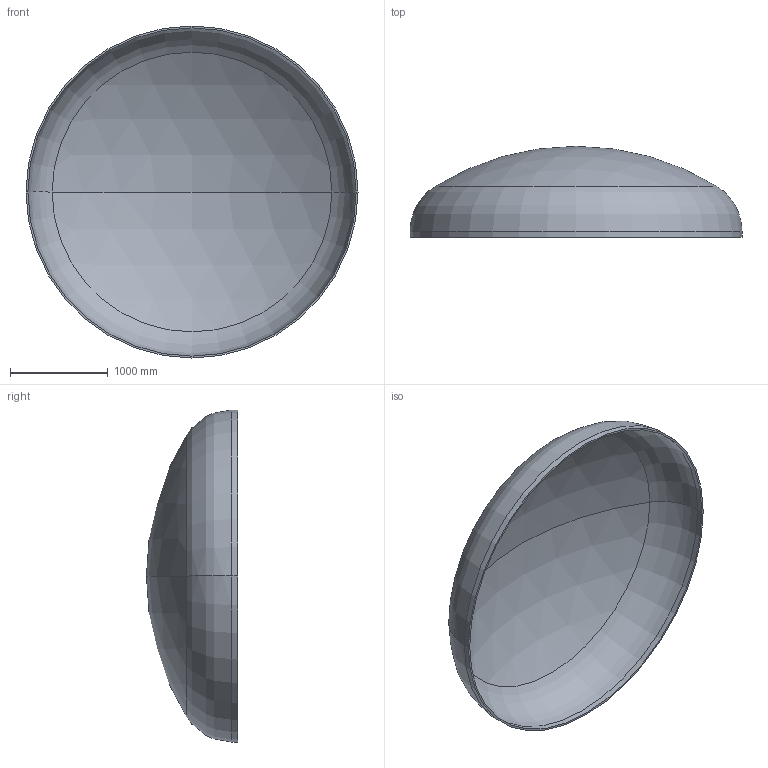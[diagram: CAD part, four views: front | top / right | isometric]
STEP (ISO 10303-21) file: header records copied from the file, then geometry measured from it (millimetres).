
FILE_DESCRIPTION (( 'STEP AP203' ), '1' );
FILE_NAME ('DIN 28013 Korbbogenform_-_Boden DIN 28013 - 3400 x 60 - I - s=19.step', '2016-07-01T19:15:34', ( '' ), ( '' ), 'SwSTEP 2.0', 'SolidWorks 2013', '' );
FILE_SCHEMA (( 'CONFIG_CONTROL_DESIGN' ));
Length unit declared in the file: millimetre
Products named in the file (1): DIN 28013 Korbbogenform_-_Boden DIN 28013 - 3400 x 60 - I - s=19
Bounding box: 3400 x 933.07 x 3400 mm (x, y, z)
Volume: 249397031.7 mm3; surface area: 26454877.7 mm2
Topology: 1 solids, 1 shells, 13 faces, 24 edges, 14 vertices
Faces by surface type: torus 4, cylinder 4, sphere 4, plane 1
Entity records: 407 total; most frequent: DIRECTION 72, CARTESIAN_POINT 52, ORIENTED_EDGE 48, AXIS2_PLACEMENT_3D 34, EDGE_CURVE 24, CIRCLE 20, EDGE_LOOP 14, VERTEX_POINT 14
